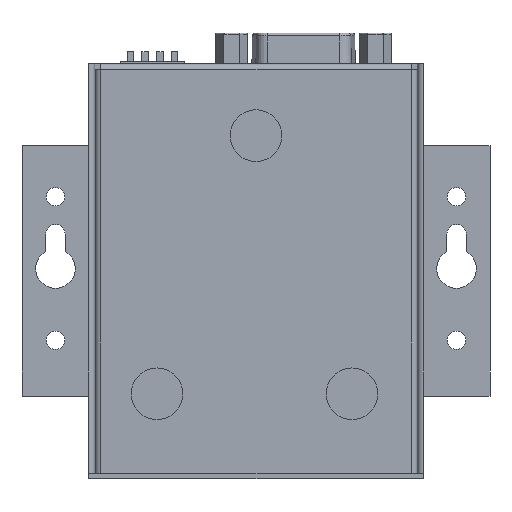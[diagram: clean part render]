
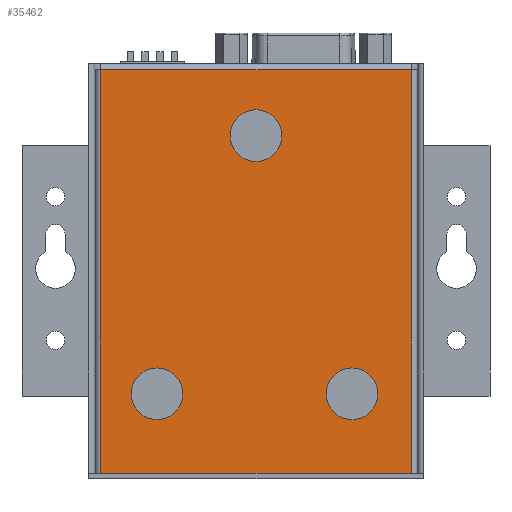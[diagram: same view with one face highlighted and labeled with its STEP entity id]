
A CAD part, front view. The second image highlights one B-rep face of the part: STEP entity #35462.
In plain terms, the highlighted planar face has unit normal (0, -1, 0).
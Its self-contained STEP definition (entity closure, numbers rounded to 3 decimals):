
#350=FACE_BOUND('',#6112,.T.);
#351=FACE_BOUND('',#6113,.T.);
#352=FACE_BOUND('',#6114,.T.);
#1395=PLANE('',#38078);
#2166=CIRCLE('',#36530,4.5);
#2651=CIRCLE('',#38079,4.5);
#2652=CIRCLE('',#38080,4.5);
#4092=FACE_OUTER_BOUND('',#6111,.T.);
#6111=EDGE_LOOP('',(#30822,#30823,#30824,#30825));
#6112=EDGE_LOOP('',(#30826));
#6113=EDGE_LOOP('',(#30827));
#6114=EDGE_LOOP('',(#30828));
#7332=LINE('',#52718,#11397);
#9672=LINE('',#60689,#13737);
#9673=LINE('',#60691,#13738);
#9674=LINE('',#60692,#13739);
#11397=VECTOR('',#40091,10.);
#13737=VECTOR('',#45853,10.);
#13738=VECTOR('',#45854,10.);
#13739=VECTOR('',#45855,10.);
#15511=VERTEX_POINT('',#52715);
#15512=VERTEX_POINT('',#52717);
#15693=VERTEX_POINT('',#53320);
#17460=VERTEX_POINT('',#60688);
#17461=VERTEX_POINT('',#60690);
#17462=VERTEX_POINT('',#60693);
#17463=VERTEX_POINT('',#60695);
#19125=EDGE_CURVE('',#15512,#15511,#7332,.T.);
#19415=EDGE_CURVE('',#15693,#15693,#2166,.T.);
#22140=EDGE_CURVE('',#15511,#17460,#9672,.T.);
#22141=EDGE_CURVE('',#17460,#17461,#9673,.T.);
#22142=EDGE_CURVE('',#17461,#15512,#9674,.T.);
#22143=EDGE_CURVE('',#17462,#17462,#2651,.T.);
#22144=EDGE_CURVE('',#17463,#17463,#2652,.T.);
#30822=ORIENTED_EDGE('',*,*,#22140,.T.);
#30823=ORIENTED_EDGE('',*,*,#22141,.T.);
#30824=ORIENTED_EDGE('',*,*,#22142,.T.);
#30825=ORIENTED_EDGE('',*,*,#19125,.T.);
#30826=ORIENTED_EDGE('',*,*,#22143,.T.);
#30827=ORIENTED_EDGE('',*,*,#19415,.T.);
#30828=ORIENTED_EDGE('',*,*,#22144,.T.);
#35462=ADVANCED_FACE('',(#4092,#350,#351,#352),#1395,.F.);
#36530=AXIS2_PLACEMENT_3D('',#53322,#40636,#40637);
#38078=AXIS2_PLACEMENT_3D('',#60687,#45851,#45852);
#38079=AXIS2_PLACEMENT_3D('',#60694,#45856,#45857);
#38080=AXIS2_PLACEMENT_3D('',#60696,#45858,#45859);
#40091=DIRECTION('',(1.,0.,0.));
#40636=DIRECTION('center_axis',(0.,1.,0.));
#40637=DIRECTION('ref_axis',(1.,0.,0.));
#45851=DIRECTION('center_axis',(0.,1.,0.));
#45852=DIRECTION('ref_axis',(1.,0.,0.));
#45853=DIRECTION('',(0.,0.,1.));
#45854=DIRECTION('',(-1.,0.,0.));
#45855=DIRECTION('',(0.,0.,-1.));
#45856=DIRECTION('center_axis',(0.,1.,0.));
#45857=DIRECTION('ref_axis',(1.,0.,0.));
#45858=DIRECTION('center_axis',(0.,1.,0.));
#45859=DIRECTION('ref_axis',(1.,0.,0.));
#52715=CARTESIAN_POINT('',(52.055,-5.51,-69.6));
#52717=CARTESIAN_POINT('',(-2.055,-5.51,-69.6));
#52718=CARTESIAN_POINT('',(-3.065,-5.51,-69.6));
#53320=CARTESIAN_POINT('',(20.5,-5.51,-10.872));
#53322=CARTESIAN_POINT('Origin',(25.,-5.51,-10.872));
#60687=CARTESIAN_POINT('Origin',(25.,-5.51,-34.));
#60688=CARTESIAN_POINT('',(52.055,-5.51,0.59));
#60689=CARTESIAN_POINT('',(52.055,-5.51,-16.705));
#60690=CARTESIAN_POINT('',(-2.055,-5.51,0.59));
#60691=CARTESIAN_POINT('',(10.968,-5.51,0.59));
#60692=CARTESIAN_POINT('',(-2.055,-5.51,-51.8));
#60693=CARTESIAN_POINT('',(3.279,-5.51,-55.8));
#60694=CARTESIAN_POINT('Origin',(7.779,-5.51,-55.8));
#60695=CARTESIAN_POINT('',(37.207,-5.51,-55.8));
#60696=CARTESIAN_POINT('Origin',(41.707,-5.51,-55.8));
